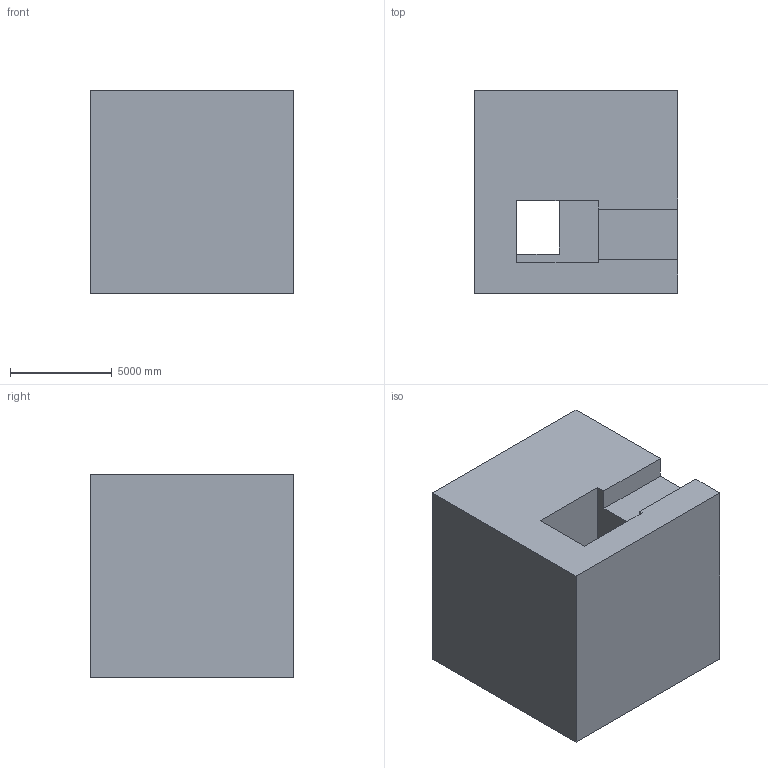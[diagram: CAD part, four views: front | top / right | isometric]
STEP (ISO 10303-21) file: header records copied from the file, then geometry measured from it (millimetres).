
FILE_DESCRIPTION (( 'STEP AP203' ), '1' );
FILE_NAME ('218.STEP', '2022-07-28T13:56:27', ( 'user' ), ( '' ), 'SwSTEP 2.0', 'SolidWorks 2021', '' );
FILE_SCHEMA (( 'CONFIG_CONTROL_DESIGN' ));
Length unit declared in the file: centimetre
Products named in the file (1): 218
Bounding box: 10000 x 10000 x 10000 mm (x, y, z)
Volume: 840672836276.4 mm3; surface area: 756128931.6 mm2
Topology: 1 solids, 1 shells, 19 faces, 54 edges, 36 vertices
Faces by surface type: plane 19
Entity records: 689 total; most frequent: CARTESIAN_POINT 110, ORIENTED_EDGE 108, DIRECTION 94, LINE 54, VECTOR 54, EDGE_CURVE 54, VERTEX_POINT 36, EDGE_LOOP 20
